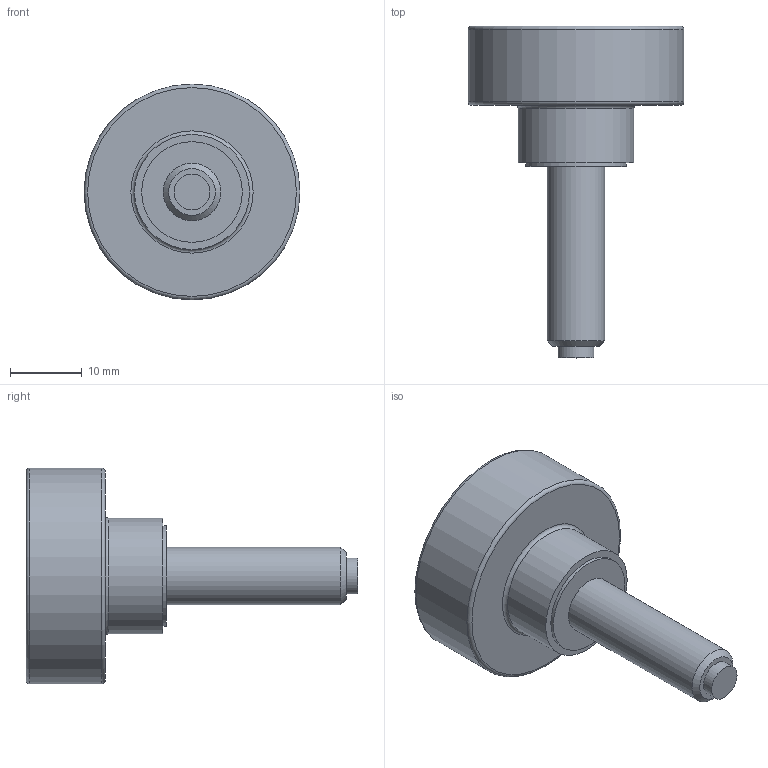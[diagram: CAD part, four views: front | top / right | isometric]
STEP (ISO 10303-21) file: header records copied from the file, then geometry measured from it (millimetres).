
FILE_DESCRIPTION( ( 'STEP AP203' ), '1' );
FILE_NAME( 'C:/Temp/Ganter_Step_05_03_2020/data/2_2/gn_421_10/Hollow knurled knob, with tip GN 421.10-M8-25-KU.stp', '2020-03-05T12:25:35', ( 'License CC BY-ND 4.0' ), ( 'CADENAS' ), ' ', 'PARTsolutions', ' ' );
FILE_SCHEMA( ( 'CONFIG_CONTROL_DESIGN' ) );
Length unit declared in the file: millimetre
Products named in the file (1): _Hollow knurled knob, with tip GN 421.10-M8-25-KU
Bounding box: 30 x 46.1 x 30 mm (x, y, z)
Volume: 7048.7 mm3; surface area: 4132.7 mm2
Topology: 1 solids, 1 shells, 19 faces, 30 edges, 19 vertices
Faces by surface type: plane 8, cylinder 7, torus 3, cone 1
Full cylindrical faces by diameter (mm): 5 x1, 8 x1, 12 x1, 14 x1, 16 x1, 26 x1, 30 x1
Entity records: 418 total; most frequent: DIRECTION 76, CARTESIAN_POINT 56, AXIS2_PLACEMENT_3D 38, EDGE_LOOP 36, ORIENTED_EDGE 36, FACE_OUTER_BOUND 29, ADVANCED_FACE 19, EDGE_CURVE 18
